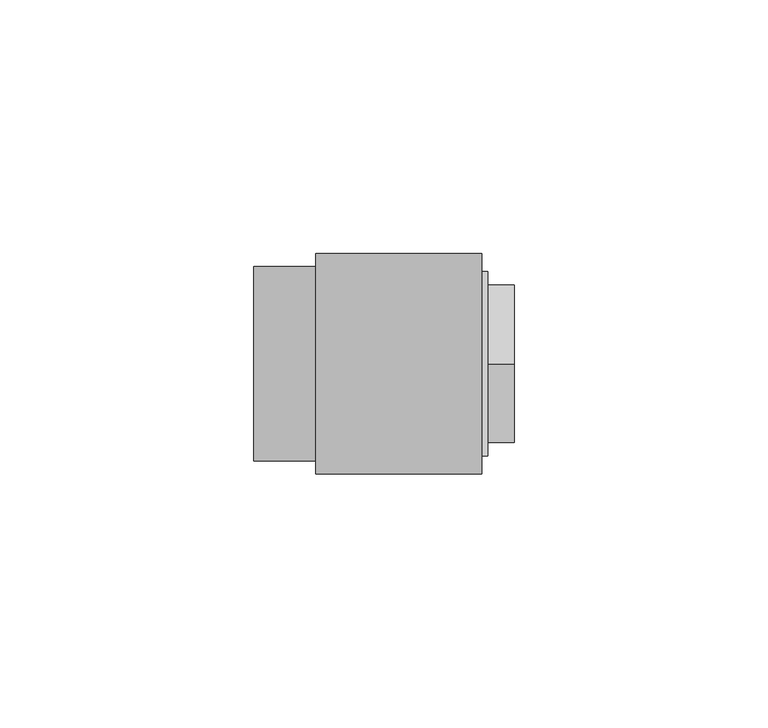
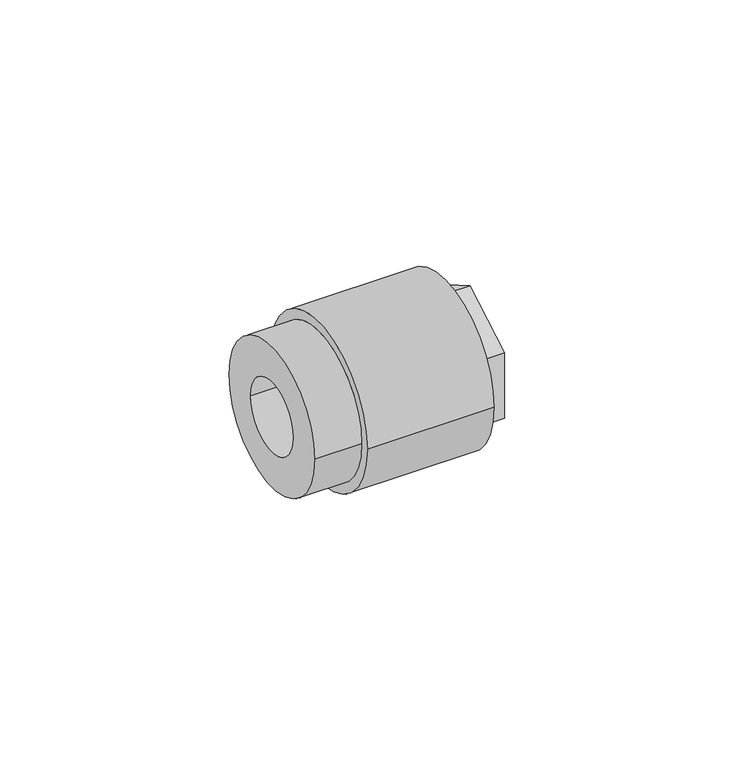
"""IFC4 building model written with IfcOpenShell, lengths in millimetres: pipe fitting geometry, Aquatherm - Fusion Outlet Transition Female : POTABLE BRASS - HEX."""

from ifc_helpers import new_model, si_unit, frame, origin, place, context, project, spatial, polyline, circle_curve, source, transform, mapped, element, save
from ifc_brep_helpers import plane_surface, cylinder_surface, revolved_surface, advanced_brep


def pipe_fitting_dd18d409(model_context):
    return source(origin(), model_context, "Body", "AdvancedBrep", [
        advanced_brep(
        [(25.62225, 12.7, 0.0), (25.62225, -12.7, 0.0), (36.5363125, -12.7, 0.0), (36.5363125, 12.7, 0.0), (25.62225, 13.49375, 0.0), (25.62225, -13.49375, 0.0), (22.44725, 13.49375, 0.0), (22.44725, -13.49375, 0.0), (22.44725, 9.525, 0.0), (22.44725, -9.525, 0.0), (19.27225, 9.525, 0.0), (19.27225, -9.525, 0.0), (19.27225, 19.177, 0.0), (19.27225, -19.177, 0.0), (32.766, 19.177, 0.0), (32.766, -19.177, 0.0), (39.116, 13.49375, 0.0), (39.116, -13.49375, 0.0), (39.116, -15.494, 0.0), (39.116, -15.494, -8.9454651), (39.116, 0.0, -17.8909301), (39.116, 15.494, -8.9454651), (39.116, 15.494, 0.0), (39.116, 15.494, 8.9454651), (39.116, 0.0, 17.8909301), (39.116, -15.494, 8.9454651), (32.766, 18.161, 0.0), (32.766, -18.161, 0.0), (33.956625, 18.161, 0.0), (33.956625, -18.161, 0.0), (33.956625, 0.0, -17.8909301), (33.956625, -15.494, -8.9454651), (33.956625, -15.494, 8.9454651), (33.956625, 0.0, 17.8909301), (33.956625, 15.494, 8.9454651), (33.956625, 15.494, -8.9454651)],
        [
            (0, 1, circle_curve(frame((25.62225, 0.0, 0.0), z_axis=(-1.0, 0.0, 0.0), x_axis=(0.0, -1.0, 0.0)), 12.7)),
            (1, 2),
            (2, 3, circle_curve(frame((36.5363125, 0.0, 0.0), z_axis=(1.0, 0.0, 0.0), x_axis=(0.0, -1.0, 0.0)), 12.7)),
            (3, 0),
            (1, 0, circle_curve(frame((25.62225, 0.0, 0.0), z_axis=(-1.0, 0.0, 0.0), x_axis=(0.0, -1.0, 0.0)), 12.7)),
            (3, 2, circle_curve(frame((36.5363125, 0.0, 0.0), z_axis=(1.0, 0.0, 0.0), x_axis=(0.0, -1.0, 0.0)), 12.7)),
            (0, 4),
            (4, 5, circle_curve(frame((25.62225, 0.0, 0.0), z_axis=(-1.0, 0.0, 0.0), x_axis=(0.0, -1.0, 0.0)), 13.49375)),
            (5, 1),
            (5, 4, circle_curve(frame((25.62225, 0.0, 0.0), z_axis=(-1.0, 0.0, 0.0), x_axis=(0.0, -1.0, 0.0)), 13.49375)),
            (4, 6),
            (6, 7, circle_curve(frame((22.44725, 0.0, 0.0), z_axis=(-1.0, 0.0, 0.0), x_axis=(0.0, -1.0, 0.0)), 13.49375)),
            (7, 5),
            (7, 6, circle_curve(frame((22.44725, 0.0, 0.0), z_axis=(-1.0, 0.0, 0.0), x_axis=(0.0, -1.0, 0.0)), 13.49375)),
            (6, 8),
            (8, 9, circle_curve(frame((22.44725, 0.0, 0.0), z_axis=(-1.0, 0.0, 0.0), x_axis=(0.0, -1.0, 0.0)), 9.525)),
            (9, 7),
            (9, 8, circle_curve(frame((22.44725, 0.0, 0.0), z_axis=(-1.0, 0.0, 0.0), x_axis=(0.0, -1.0, 0.0)), 9.525)),
            (8, 10),
            (10, 11, circle_curve(frame((19.27225, 0.0, 0.0), z_axis=(-1.0, 0.0, 0.0), x_axis=(0.0, -1.0, 0.0)), 9.525)),
            (11, 9),
            (11, 10, circle_curve(frame((19.27225, 0.0, 0.0), z_axis=(-1.0, 0.0, 0.0), x_axis=(0.0, -1.0, 0.0)), 9.525)),
            (10, 12),
            (12, 13, circle_curve(frame((19.27225, 0.0, 0.0), z_axis=(-1.0, 0.0, 0.0), x_axis=(0.0, -1.0, 0.0)), 19.177)),
            (13, 11),
            (13, 12, circle_curve(frame((19.27225, 0.0, 0.0), z_axis=(-1.0, 0.0, 0.0), x_axis=(0.0, -1.0, 0.0)), 19.177)),
            (12, 14),
            (14, 15, circle_curve(frame((32.766, 0.0, 0.0), z_axis=(-1.0, 0.0, 0.0), x_axis=(0.0, -1.0, 0.0)), 19.177)),
            (15, 13),
            (15, 14, circle_curve(frame((32.766, 0.0, 0.0), z_axis=(-1.0, 0.0, 0.0), x_axis=(0.0, -1.0, 0.0)), 19.177)),
            (16, 17, circle_curve(frame((39.116, 0.0, 0.0), z_axis=(-1.0, 0.0, 0.0), x_axis=(0.0, -1.0, 0.0)), 13.49375)),
            (17, 18),
            (18, 19),
            (19, 20),
            (20, 21),
            (21, 22),
            (22, 16),
            (17, 16, circle_curve(frame((39.116, 0.0, 0.0), z_axis=(-1.0, 0.0, 0.0), x_axis=(0.0, -1.0, 0.0)), 13.49375)),
            (22, 23),
            (23, 24),
            (24, 25),
            (25, 18),
            (2, 17),
            (16, 3),
            (14, 26),
            (26, 27, circle_curve(frame((32.766, 0.0, 0.0), z_axis=(-1.0, 0.0, 0.0), x_axis=(0.0, -1.0, 0.0)), 18.161)),
            (27, 15),
            (27, 26, circle_curve(frame((32.766, 0.0, 0.0), z_axis=(-1.0, 0.0, 0.0), x_axis=(0.0, -1.0, 0.0)), 18.161)),
            (26, 28),
            (28, 29, circle_curve(frame((33.956625, 0.0, 0.0), z_axis=(-1.0, 0.0, 0.0), x_axis=(0.0, -1.0, 0.0)), 18.161)),
            (29, 27),
            (29, 28, circle_curve(frame((33.956625, 0.0, 0.0), z_axis=(-1.0, 0.0, 0.0), x_axis=(0.0, -1.0, 0.0)), 18.161)),
            (30, 31),
            (31, 32),
            (32, 33),
            (33, 34),
            (34, 35),
            (35, 30),
            (35, 21),
            (20, 30),
            (34, 23),
            (33, 24),
            (32, 25),
            (31, 19),
        ],
        [
            revolved_surface(polyline([(36.5363125, -12.7, 0.0), (25.62225, -12.7, 0.0)]), (40.9492251, 0.0, 0.0), (1.0, 0.0, 0.0)),
            plane_surface(frame((25.62225, 0.0, 0.0), z_axis=(-1.0, 0.0, 0.0), x_axis=(0.0, -1.0, 0.0))),
            revolved_surface(polyline([(25.62225, -13.49375, 0.0), (22.44725, -13.49375, 0.0)]), (40.9492251, 0.0, 0.0), (1.0, 0.0, 0.0)),
            plane_surface(frame((22.44725, 0.0, 0.0), z_axis=(1.0, 0.0, 0.0), x_axis=(0.0, -1.0, 0.0))),
            revolved_surface(polyline([(22.44725, -9.525, 0.0), (19.27225, -9.525, 0.0)]), (40.9492251, 0.0, 0.0), (1.0, 0.0, 0.0)),
            plane_surface(frame((19.27225, 0.0, 0.0), z_axis=(-1.0, 0.0, 0.0), x_axis=(0.0, -1.0, 0.0))),
            cylinder_surface(frame((40.9492251, 0.0, 0.0), z_axis=(1.0, 0.0, 0.0), x_axis=(0.0, -1.0, 0.0)), 19.177),
            plane_surface(frame((39.116, 0.0, 0.0), z_axis=(1.0, 0.0, 0.0), x_axis=(0.0, -1.0, 0.0))),
            revolved_surface(polyline([(39.116, -13.49375, 0.0), (36.5363125, -12.7, 0.0)]), (40.9492251, 0.0, 0.0), (1.0, 0.0, 0.0)),
            plane_surface(frame((32.766, 0.0, 0.0), z_axis=(1.0, 0.0, 0.0), x_axis=(0.0, -1.0, 0.0))),
            cylinder_surface(frame((40.9492251, 0.0, 0.0), z_axis=(1.0, 0.0, 0.0), x_axis=(0.0, -1.0, 0.0)), 18.161),
            plane_surface(frame((33.956625, 15.494, -8.9454651), z_axis=(1.0000000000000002, 0.0, 0.0), x_axis=(0.0, 0.8660254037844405, 0.49999999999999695))),
            plane_surface(frame((33.956625, 0.0, -17.8909301), z_axis=(0.0, 0.49999999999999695, -0.8660254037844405), x_axis=(1.0, 0.0, 0.0))),
            plane_surface(frame((33.956625, 15.494, -8.9454651), z_axis=(0.0, 1.0, 0.0), x_axis=(1.0, 0.0, 0.0))),
            plane_surface(frame((33.956625, 15.494, 8.9454651), z_axis=(0.0, 0.5000000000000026, 0.8660254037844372), x_axis=(1.0, 0.0, 0.0))),
            plane_surface(frame((33.956625, 0.0, 17.8909301), z_axis=(0.0, -0.499999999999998, 0.8660254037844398), x_axis=(1.0, 0.0, 0.0))),
            plane_surface(frame((33.956625, -15.494, 8.9454651), z_axis=(0.0, -1.0, 0.0), x_axis=(1.0, 0.0, 0.0))),
            plane_surface(frame((33.956625, -15.494, -8.9454651), z_axis=(0.0, -0.5000000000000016, -0.8660254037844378), x_axis=(1.0, 0.0, 0.0))),
        ],
        [
            (0, [[1, 2, 3, 4]]),
            (0, [[-2, 5, -4, 6]]),
            (1, [[-1, 7, 8, 9]]),
            (1, [[-5, -9, 10, -7]]),
            (2, [[-8, 11, 12, 13]]),
            (2, [[-10, -13, 14, -11]]),
            (3, [[-12, 15, 16, 17]]),
            (3, [[-14, -17, 18, -15]]),
            (4, [[-16, 19, 20, 21]]),
            (4, [[-18, -21, 22, -19]]),
            (5, [[-20, 23, 24, 25]]),
            (5, [[-22, -25, 26, -23]]),
            (6, [[-24, 27, 28, 29]]),
            (6, [[-26, -29, 30, -27]]),
            (7, [[31, 32, 33, 34, 35, 36, 37]]),
            (7, [[38, -37, 39, 40, 41, 42, -32]]),
            (8, [[-3, 43, -31, 44]]),
            (8, [[-6, -44, -38, -43]]),
            (9, [[-28, 45, 46, 47]]),
            (9, [[-30, -47, 48, -45]]),
            (10, [[-46, 49, 50, 51]]),
            (10, [[-48, -51, 52, -49]]),
            (11, [[-50, -52], [53, 54, 55, 56, 57, 58]]),
            (12, [[-58, 59, -35, 60]]),
            (13, [[-57, 61, -39, -36, -59]]),
            (14, [[-56, 62, -40, -61]]),
            (15, [[-55, 63, -41, -62]]),
            (16, [[-54, 64, -33, -42, -63]]),
            (17, [[-53, -60, -34, -64]]),
        ],
    ),
        advanced_brep(
        [(-12.1508108, 19.177, 0.0), (-12.1508108, -19.177, 0.0), (-12.1508108, 9.525, 0.0), (-12.1508108, -9.525, 0.0), (19.27225, 19.177, 0.0), (19.27225, -19.177, 0.0), (19.27225, 9.525, 0.0), (19.27225, -9.525, 0.0), (0.0, 19.177, 0.0), (0.0, -19.177, 0.0), (32.766, 21.717, 0.0), (32.766, -21.717, 0.0), (32.766, 19.177, 0.0), (32.766, -19.177, 0.0), (0.0, 21.717, 0.0), (0.0, -21.717, 0.0)],
        [
            (0, 1, circle_curve(frame((-12.1508108, 0.0, 0.0), z_axis=(-1.0, 0.0, 0.0), x_axis=(0.0, -1.0, 0.0)), 19.177)),
            (1, 0, circle_curve(frame((-12.1508108, 0.0, 0.0), z_axis=(-1.0, 0.0, 0.0), x_axis=(0.0, -1.0, 0.0)), 19.177)),
            (2, 3, circle_curve(frame((-12.1508108, 0.0, 0.0), z_axis=(1.0, 0.0, 0.0), x_axis=(0.0, -1.0, 0.0)), 9.525)),
            (3, 2, circle_curve(frame((-12.1508108, 0.0, 0.0), z_axis=(1.0, 0.0, 0.0), x_axis=(0.0, -1.0, 0.0)), 9.525)),
            (4, 5, circle_curve(frame((19.27225, 0.0, 0.0), z_axis=(1.0, 0.0, 0.0), x_axis=(0.0, -1.0, 0.0)), 19.177)),
            (5, 4, circle_curve(frame((19.27225, 0.0, 0.0), z_axis=(1.0, 0.0, 0.0), x_axis=(0.0, -1.0, 0.0)), 19.177)),
            (6, 7, circle_curve(frame((19.27225, 0.0, 0.0), z_axis=(-1.0, 0.0, 0.0), x_axis=(0.0, -1.0, 0.0)), 9.525)),
            (7, 6, circle_curve(frame((19.27225, 0.0, 0.0), z_axis=(-1.0, 0.0, 0.0), x_axis=(0.0, -1.0, 0.0)), 9.525)),
            (2, 6),
            (7, 3),
            (0, 8),
            (8, 9, circle_curve(frame((0.0, 0.0, 0.0), z_axis=(-1.0, 0.0, 0.0), x_axis=(0.0, -1.0, 0.0)), 19.177)),
            (9, 1),
            (9, 8, circle_curve(frame((0.0, 0.0, 0.0), z_axis=(-1.0, 0.0, 0.0), x_axis=(0.0, -1.0, 0.0)), 19.177)),
            (10, 11, circle_curve(frame((32.766, 0.0, 0.0), z_axis=(1.0, 0.0, 0.0), x_axis=(0.0, -1.0, 0.0)), 21.717)),
            (11, 10, circle_curve(frame((32.766, 0.0, 0.0), z_axis=(1.0, 0.0, 0.0), x_axis=(0.0, -1.0, 0.0)), 21.717)),
            (12, 13, circle_curve(frame((32.766, 0.0, 0.0), z_axis=(-1.0, 0.0, 0.0), x_axis=(0.0, -1.0, 0.0)), 19.177)),
            (13, 12, circle_curve(frame((32.766, 0.0, 0.0), z_axis=(-1.0, 0.0, 0.0), x_axis=(0.0, -1.0, 0.0)), 19.177)),
            (14, 15, circle_curve(frame((0.0, 0.0, 0.0), z_axis=(-1.0, 0.0, 0.0), x_axis=(0.0, -1.0, 0.0)), 21.717)),
            (15, 14, circle_curve(frame((0.0, 0.0, 0.0), z_axis=(-1.0, 0.0, 0.0), x_axis=(0.0, -1.0, 0.0)), 21.717)),
            (13, 5),
            (4, 12),
            (11, 15),
            (14, 10),
        ],
        [
            plane_surface(frame((-12.1508108, -9.525, 0.0), z_axis=(-1.0, 0.0, 0.0), x_axis=(0.0, 0.0, -1.0))),
            plane_surface(frame((19.27225, -9.525, 0.0), z_axis=(1.0, 0.0, 0.0), x_axis=(0.0, 0.0, 1.0))),
            revolved_surface(polyline([(19.27225, -9.525, 0.0), (-12.150810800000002, -9.525, 0.0)]), (19.27225, 0.0, 0.0), (1.0, 0.0, 0.0)),
            cylinder_surface(frame((0.0, 0.0, 0.0), z_axis=(-1.0, 0.0, 0.0), x_axis=(0.0, -1.0, 0.0)), 19.177),
            plane_surface(frame((32.766, -19.177, 0.0), z_axis=(1.0, 0.0, 0.0), x_axis=(0.0, 0.0, 1.0))),
            plane_surface(frame((0.0, -19.177, 0.0), z_axis=(-1.0, 0.0, 0.0), x_axis=(0.0, 0.0, -1.0))),
            revolved_surface(polyline([(32.766, -19.177, 0.0), (19.27225, -19.177, 0.0)]), (32.766, 0.0, 0.0), (1.0, 0.0, 0.0)),
            cylinder_surface(frame((0.0, 0.0, 0.0), z_axis=(-1.0, 0.0, 0.0), x_axis=(0.0, -1.0, 0.0)), 21.717),
        ],
        [
            (0, [[1, 2], [3, 4]]),
            (1, [[5, 6], [7, 8]]),
            (2, [[-3, 9, -8, 10]]),
            (2, [[-4, -10, -7, -9]]),
            (3, [[-1, 11, 12, 13]]),
            (3, [[-2, -13, 14, -11]]),
            (4, [[15, 16], [17, 18]]),
            (5, [[19, 20], [-12, -14]]),
            (6, [[-18, 21, -5, 22]]),
            (6, [[-17, -22, -6, -21]]),
            (7, [[-16, 23, -19, 24]]),
            (7, [[-15, -24, -20, -23]]),
        ],
    ),
    ])


if __name__ == "__main__":
    model = new_model("IFC4")
    model_context = context("Model", 3, world=origin())
    ifc_project = project(units=[si_unit("LENGTHUNIT", "METRE", prefix="MILLI")], contexts=[model_context])
    site = spatial("IfcSite", under=ifc_project)
    building = spatial("IfcBuilding", under=site)
    placement = place(None, origin())
    pipe_fitting_shape = pipe_fitting_dd18d409(model_context)
    element("IfcPipeFitting", 1, ObjectType="Aquatherm - Fusion Outlet Transition Female : POTABLE BRASS - HEX", at=placement, inside=building, context=model_context, shape_type="MappedRepresentation", body=[
        mapped(pipe_fitting_shape, transform((0.0, 0.0, 0.0), x_axis=(1.0, 0.0, 0.0), y_axis=(0.0, 1.0, 0.0), z_axis=(0.0, 0.0, 1.0))),
    ])
    save(model, "model.ifc")
